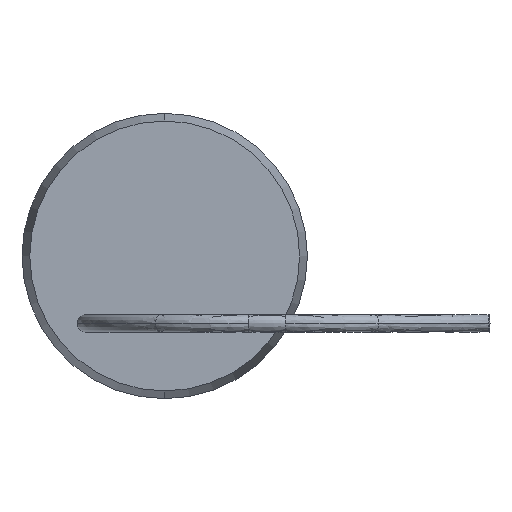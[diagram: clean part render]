
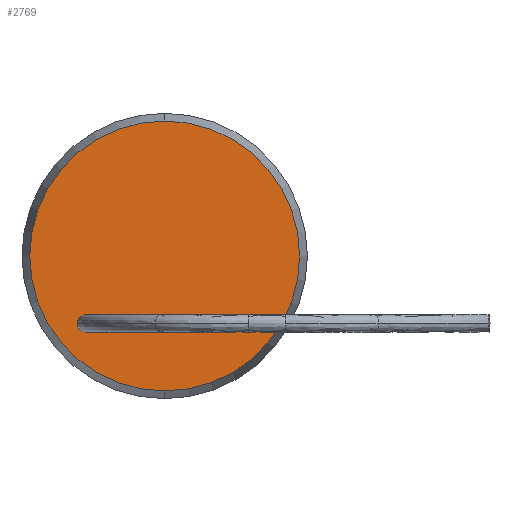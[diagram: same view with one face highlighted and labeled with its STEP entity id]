
A CAD part, left-side view. The second image highlights one B-rep face of the part: STEP entity #2769.
In plain terms, the highlighted planar face has unit normal (-1, 0, 0).
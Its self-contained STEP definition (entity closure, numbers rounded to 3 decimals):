
#262 = CIRCLE ( 'NONE', #263, 9.314 ) ;
#263 = AXIS2_PLACEMENT_3D ( 'NONE', #264, #265, #266 ) ;
#264 = CARTESIAN_POINT ( 'NONE',  ( 0., 0., 0. ) ) ;
#265 = DIRECTION ( 'NONE',  ( 1., 0., 0. ) ) ;
#266 = DIRECTION ( 'NONE',  ( 0., 0., -1. ) ) ;
#303 = CARTESIAN_POINT ( 'NONE',  ( 0., 0., 9.314 ) ) ;
#496 = CARTESIAN_POINT ( 'NONE',  ( 0., 2.54, -5.25 ) ) ;
#822 = VERTEX_POINT ( 'NONE', #303 ) ;
#979 = CARTESIAN_POINT ( 'NONE',  ( 0., -2.54, -5.25 ) ) ;
#1152 = CARTESIAN_POINT ( 'NONE',  ( 0., 0., -4.05 ) ) ;
#1161 = VERTEX_POINT ( 'NONE', #496 ) ;
#1375 = FACE_BOUND ( 'NONE', #3085, .T. ) ;
#1376 = FACE_BOUND ( 'NONE', #7593, .T. ) ;
#1377 = FACE_BOUND ( 'NONE', #7742, .T. ) ;
#1378 = FACE_OUTER_BOUND ( 'NONE', #3517, .T. ) ;
#1379 = PLANE ( 'NONE',  #1380 ) ;
#1380 = AXIS2_PLACEMENT_3D ( 'NONE', #1381, #1382, #1383 ) ;
#1381 = CARTESIAN_POINT ( 'NONE',  ( 0., 9.687, 9.687 ) ) ;
#1382 = DIRECTION ( 'NONE',  ( 1., 0., 0. ) ) ;
#1383 = DIRECTION ( 'NONE',  ( 0., -1., 0. ) ) ;
#1419 = CIRCLE ( 'NONE', #1420, 0.6 ) ;
#1420 = AXIS2_PLACEMENT_3D ( 'NONE', #1421, #1422, #1423 ) ;
#1421 = CARTESIAN_POINT ( 'NONE',  ( 0., -2.54, -4.65 ) ) ;
#1422 = DIRECTION ( 'NONE',  ( 1., 0., 0. ) ) ;
#1423 = DIRECTION ( 'NONE',  ( 0., 0., 1. ) ) ;
#1501 = CIRCLE ( 'NONE', #1502, 0.6 ) ;
#1502 = AXIS2_PLACEMENT_3D ( 'NONE', #1503, #1504, #1505 ) ;
#1503 = CARTESIAN_POINT ( 'NONE',  ( 0., 0., -4.65 ) ) ;
#1504 = DIRECTION ( 'NONE',  ( -1., 0., 0. ) ) ;
#1505 = DIRECTION ( 'NONE',  ( 0., 0., 1. ) ) ;
#1674 = CARTESIAN_POINT ( 'NONE',  ( 0., 0., -9.314 ) ) ;
#1989 = CIRCLE ( 'NONE', #1990, 0.6 ) ;
#1990 = AXIS2_PLACEMENT_3D ( 'NONE', #1991, #1992, #1993 ) ;
#1991 = CARTESIAN_POINT ( 'NONE',  ( 0., -2.54, -4.65 ) ) ;
#1992 = DIRECTION ( 'NONE',  ( 1., 0., 0. ) ) ;
#1993 = DIRECTION ( 'NONE',  ( 0., 0., 1. ) ) ;
#1994 = CARTESIAN_POINT ( 'NONE',  ( 0., 0., -5.25 ) ) ;
#2512 = ORIENTED_EDGE ( 'NONE', *, *, #2828, .T. ) ;
#2769 = ADVANCED_FACE ( 'NONE', ( #1375, #1376, #1377, #1378 ), #1379, .F. ) ;
#2828 = EDGE_CURVE ( 'NONE', #7511, #6988, #1419, .T. ) ;
#2926 = EDGE_CURVE ( 'NONE', #7250, #7031, #1501, .T. ) ;
#3085 = EDGE_LOOP ( 'NONE', ( #3516, #7555 ) ) ;
#3144 = CARTESIAN_POINT ( 'NONE',  ( 0., 2.54, -4.05 ) ) ;
#3295 = ORIENTED_EDGE ( 'NONE', *, *, #7248, .T. ) ;
#3386 = VERTEX_POINT ( 'NONE', #1674 ) ;
#3466 = CIRCLE ( 'NONE', #3467, 0.6 ) ;
#3467 = AXIS2_PLACEMENT_3D ( 'NONE', #3468, #3469, #3470 ) ;
#3468 = CARTESIAN_POINT ( 'NONE',  ( 0., 2.54, -4.65 ) ) ;
#3469 = DIRECTION ( 'NONE',  ( -1., 0., 0. ) ) ;
#3470 = DIRECTION ( 'NONE',  ( 0., 0., 1. ) ) ;
#3516 = ORIENTED_EDGE ( 'NONE', *, *, #5326, .F. ) ;
#3517 = EDGE_LOOP ( 'NONE', ( #3944, #7572 ) ) ;
#3695 = CARTESIAN_POINT ( 'NONE',  ( 0., -2.54, -4.05 ) ) ;
#3932 = CIRCLE ( 'NONE', #3933, 0.6 ) ;
#3933 = AXIS2_PLACEMENT_3D ( 'NONE', #3934, #3935, #3936 ) ;
#3934 = CARTESIAN_POINT ( 'NONE',  ( 0., 2.54, -4.65 ) ) ;
#3935 = DIRECTION ( 'NONE',  ( -1., 0., 0. ) ) ;
#3936 = DIRECTION ( 'NONE',  ( 0., 0., 1. ) ) ;
#3937 = CIRCLE ( 'NONE', #3938, 9.314 ) ;
#3938 = AXIS2_PLACEMENT_3D ( 'NONE', #3939, #3940, #3941 ) ;
#3939 = CARTESIAN_POINT ( 'NONE',  ( 0., 0., 0. ) ) ;
#3940 = DIRECTION ( 'NONE',  ( 1., 0., 0. ) ) ;
#3941 = DIRECTION ( 'NONE',  ( 0., 0., -1. ) ) ;
#3944 = ORIENTED_EDGE ( 'NONE', *, *, #6793, .F. ) ;
#4832 = CIRCLE ( 'NONE', #4833, 0.6 ) ;
#4833 = AXIS2_PLACEMENT_3D ( 'NONE', #4834, #4835, #4836 ) ;
#4834 = CARTESIAN_POINT ( 'NONE',  ( 0., 0., -4.65 ) ) ;
#4835 = DIRECTION ( 'NONE',  ( -1., 0., 0. ) ) ;
#4836 = DIRECTION ( 'NONE',  ( 0., 0., 1. ) ) ;
#4860 = VERTEX_POINT ( 'NONE', #3144 ) ;
#5326 = EDGE_CURVE ( 'NONE', #4860, #1161, #3466, .T. ) ;
#5848 = EDGE_CURVE ( 'NONE', #1161, #4860, #3932, .T. ) ;
#6378 = EDGE_CURVE ( 'NONE', #7031, #7250, #4832, .T. ) ;
#6793 = EDGE_CURVE ( 'NONE', #3386, #822, #262, .T. ) ;
#6988 = VERTEX_POINT ( 'NONE', #979 ) ;
#7031 = VERTEX_POINT ( 'NONE', #1152 ) ;
#7248 = EDGE_CURVE ( 'NONE', #6988, #7511, #1989, .T. ) ;
#7250 = VERTEX_POINT ( 'NONE', #1994 ) ;
#7511 = VERTEX_POINT ( 'NONE', #3695 ) ;
#7551 = EDGE_CURVE ( 'NONE', #822, #3386, #3937, .T. ) ;
#7555 = ORIENTED_EDGE ( 'NONE', *, *, #5848, .F. ) ;
#7572 = ORIENTED_EDGE ( 'NONE', *, *, #7551, .F. ) ;
#7593 = EDGE_LOOP ( 'NONE', ( #7655, #7714 ) ) ;
#7655 = ORIENTED_EDGE ( 'NONE', *, *, #6378, .F. ) ;
#7714 = ORIENTED_EDGE ( 'NONE', *, *, #2926, .F. ) ;
#7742 = EDGE_LOOP ( 'NONE', ( #2512, #3295 ) ) ;
